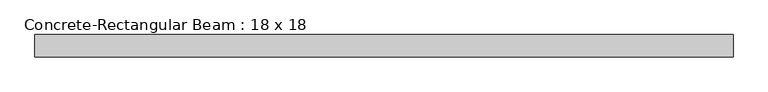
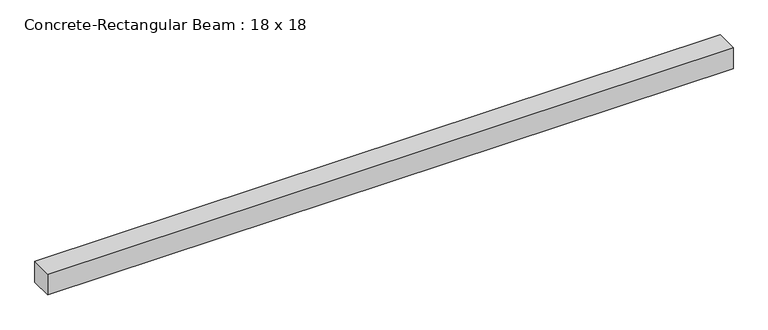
"""IFC4 building model written with IfcOpenShell, lengths in millimetres: beam geometry, Concrete-Rectangular Beam : 18 x 18."""

from ifc_helpers import new_model, si_unit, frame, origin, place, context, project, spatial, polyline, outline, extrude, source, transform, mapped, element, save


def concrete_rectangular_beam_18_x_18_b74f126b(model_context):
    return source(origin(), model_context, "Body", "SweptSolid", [
        extrude(outline(polyline([(7086.6, 228.6), (7086.6, -228.6), (-7086.6, -228.6), (-7086.6, 228.6), (7086.6, 228.6)])), frame((0.0, 0.0, -228.6), z_axis=(0.0, 0.0, 1.0), x_axis=(1.0, 0.0, 0.0)), (0.0, 0.0, 1.0), 457.2),
    ])


if __name__ == "__main__":
    model = new_model("IFC4")
    model_context = context("Model", 3, world=origin())
    ifc_project = project(units=[si_unit("LENGTHUNIT", "METRE", prefix="MILLI")], contexts=[model_context])
    site = spatial("IfcSite", under=ifc_project)
    building = spatial("IfcBuilding", under=site)
    placement = place(None, origin())
    concrete_rectangular_beam_18_x_18_shape = concrete_rectangular_beam_18_x_18_b74f126b(model_context)
    element("IfcBeam", 1, ObjectType="Concrete-Rectangular Beam : 18 x 18", at=placement, inside=building, context=model_context, shape_type="MappedRepresentation", body=[
        mapped(concrete_rectangular_beam_18_x_18_shape, transform((0.0, 0.0, 0.0), x_axis=(1.0, 0.0, 0.0), y_axis=(0.0, 1.0, 0.0), z_axis=(0.0, 0.0, 1.0))),
    ])
    save(model, "model.ifc")
